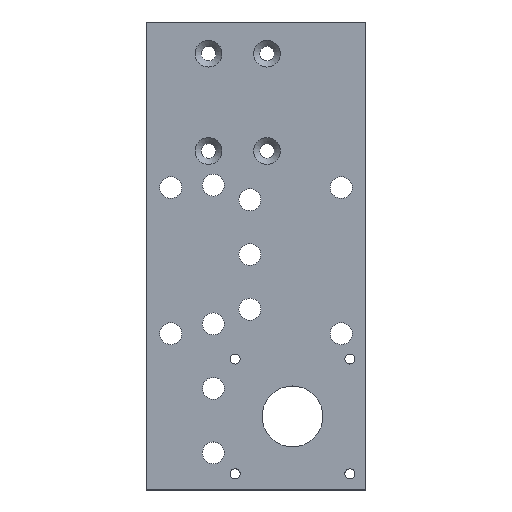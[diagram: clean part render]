
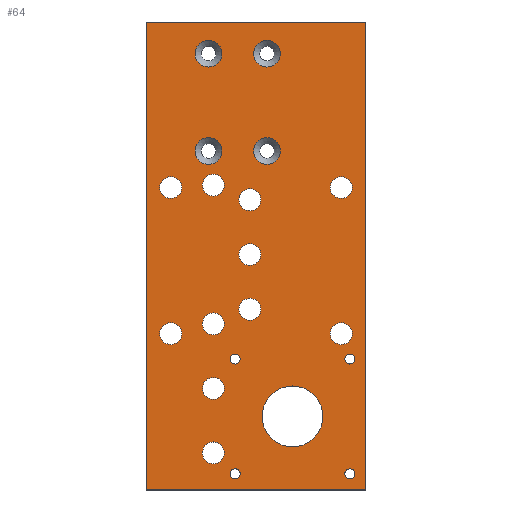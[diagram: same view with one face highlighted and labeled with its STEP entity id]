
A CAD part, top view. The second image highlights one B-rep face of the part: STEP entity #64.
In plain terms, the highlighted planar face has unit normal (0, 0, 1).
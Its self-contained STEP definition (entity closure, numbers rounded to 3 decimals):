
#64=ADVANCED_FACE('',(#241,#243,#245,#247,#249,#251,#253,#255,#257,#259,#261,#263,
#265,#267,#269,#271,#273,#275,#277,#279,#281),#283,.F.);
#241=FACE_BOUND('',#242,.T.);
#242=EDGE_LOOP('',(#2824,#2825,#2826,#2827));
#243=FACE_BOUND('',#244,.T.);
#244=EDGE_LOOP('',(#2828));
#245=FACE_BOUND('',#246,.T.);
#246=EDGE_LOOP('',(#2829));
#247=FACE_BOUND('',#248,.T.);
#248=EDGE_LOOP('',(#2830));
#249=FACE_BOUND('',#250,.T.);
#250=EDGE_LOOP('',(#2831));
#251=FACE_BOUND('',#252,.T.);
#252=EDGE_LOOP('',(#2832));
#253=FACE_BOUND('',#254,.T.);
#254=EDGE_LOOP('',(#2833));
#255=FACE_BOUND('',#256,.T.);
#256=EDGE_LOOP('',(#2834));
#257=FACE_BOUND('',#258,.T.);
#258=EDGE_LOOP('',(#2835));
#259=FACE_BOUND('',#260,.T.);
#260=EDGE_LOOP('',(#2836));
#261=FACE_BOUND('',#262,.T.);
#262=EDGE_LOOP('',(#2837));
#263=FACE_BOUND('',#264,.T.);
#264=EDGE_LOOP('',(#2838));
#265=FACE_BOUND('',#266,.T.);
#266=EDGE_LOOP('',(#2839));
#267=FACE_BOUND('',#268,.T.);
#268=EDGE_LOOP('',(#2840));
#269=FACE_BOUND('',#270,.T.);
#270=EDGE_LOOP('',(#2841));
#271=FACE_BOUND('',#272,.T.);
#272=EDGE_LOOP('',(#2842));
#273=FACE_BOUND('',#274,.T.);
#274=EDGE_LOOP('',(#2843));
#275=FACE_BOUND('',#276,.T.);
#276=EDGE_LOOP('',(#2844));
#277=FACE_BOUND('',#278,.T.);
#278=EDGE_LOOP('',(#2845));
#279=FACE_BOUND('',#280,.T.);
#280=EDGE_LOOP('',(#2846));
#281=FACE_BOUND('',#282,.T.);
#282=EDGE_LOOP('',(#2847));
#283=PLANE('',#284);
#284=AXIS2_PLACEMENT_3D('',#285,#286,#287);
#285=CARTESIAN_POINT('',(0.,2.9,0.));
#286=DIRECTION('',(0.,0.,-1.));
#287=DIRECTION('',(1.,0.,0.));
#2824=ORIENTED_EDGE('',*,*,#3012,.T.);
#2825=ORIENTED_EDGE('',*,*,#3013,.T.);
#2826=ORIENTED_EDGE('',*,*,#3014,.T.);
#2827=ORIENTED_EDGE('',*,*,#3015,.F.);
#2828=ORIENTED_EDGE('',*,*,#3016,.T.);
#2829=ORIENTED_EDGE('',*,*,#3017,.T.);
#2830=ORIENTED_EDGE('',*,*,#3018,.T.);
#2831=ORIENTED_EDGE('',*,*,#3019,.T.);
#2832=ORIENTED_EDGE('',*,*,#3020,.T.);
#2833=ORIENTED_EDGE('',*,*,#3021,.T.);
#2834=ORIENTED_EDGE('',*,*,#3022,.T.);
#2835=ORIENTED_EDGE('',*,*,#3023,.T.);
#2836=ORIENTED_EDGE('',*,*,#3024,.T.);
#2837=ORIENTED_EDGE('',*,*,#3025,.T.);
#2838=ORIENTED_EDGE('',*,*,#3026,.T.);
#2839=ORIENTED_EDGE('',*,*,#3027,.T.);
#2840=ORIENTED_EDGE('',*,*,#3028,.T.);
#2841=ORIENTED_EDGE('',*,*,#3029,.T.);
#2842=ORIENTED_EDGE('',*,*,#3030,.T.);
#2843=ORIENTED_EDGE('',*,*,#3031,.T.);
#2844=ORIENTED_EDGE('',*,*,#3032,.T.);
#2845=ORIENTED_EDGE('',*,*,#3033,.T.);
#2846=ORIENTED_EDGE('',*,*,#3034,.T.);
#2847=ORIENTED_EDGE('',*,*,#3035,.T.);
#3012=EDGE_CURVE('',#3106,#3107,#3108,.T.);
#3013=EDGE_CURVE('',#3107,#3109,#3110,.T.);
#3014=EDGE_CURVE('',#3109,#3111,#3112,.T.);
#3015=EDGE_CURVE('',#3106,#3111,#3113,.T.);
#3016=EDGE_CURVE('',#3114,#3114,#3115,.F.);
#3017=EDGE_CURVE('',#3116,#3116,#3117,.F.);
#3018=EDGE_CURVE('',#3118,#3118,#3119,.F.);
#3019=EDGE_CURVE('',#3120,#3120,#3121,.F.);
#3020=EDGE_CURVE('',#3122,#3122,#3123,.F.);
#3021=EDGE_CURVE('',#3124,#3124,#3125,.F.);
#3022=EDGE_CURVE('',#3126,#3126,#3127,.F.);
#3023=EDGE_CURVE('',#3128,#3128,#3129,.F.);
#3024=EDGE_CURVE('',#3130,#3130,#3131,.F.);
#3025=EDGE_CURVE('',#3132,#3132,#3133,.F.);
#3026=EDGE_CURVE('',#3134,#3134,#3135,.T.);
#3027=EDGE_CURVE('',#3136,#3136,#3137,.F.);
#3028=EDGE_CURVE('',#3138,#3138,#3139,.F.);
#3029=EDGE_CURVE('',#3140,#3140,#3141,.F.);
#3030=EDGE_CURVE('',#3142,#3142,#3143,.F.);
#3031=EDGE_CURVE('',#3144,#3144,#3145,.F.);
#3032=EDGE_CURVE('',#3146,#3146,#3147,.F.);
#3033=EDGE_CURVE('',#3148,#3148,#3149,.F.);
#3034=EDGE_CURVE('',#3150,#3150,#3151,.F.);
#3035=EDGE_CURVE('',#3152,#3152,#3153,.F.);
#3106=VERTEX_POINT('',#3283);
#3107=VERTEX_POINT('',#3284);
#3108=LINE('',#3285,#3286);
#3109=VERTEX_POINT('',#3288);
#3110=LINE('',#3289,#3290);
#3111=VERTEX_POINT('',#3292);
#3112=LINE('',#3293,#3294);
#3113=LINE('',#3296,#3297);
#3114=VERTEX_POINT('',#3299);
#3115=CIRCLE('',#3300,4.5);
#3116=VERTEX_POINT('',#3304);
#3117=CIRCLE('',#3305,4.5);
#3118=VERTEX_POINT('',#3309);
#3119=CIRCLE('',#3310,4.5);
#3120=VERTEX_POINT('',#3314);
#3121=CIRCLE('',#3315,4.5);
#3122=VERTEX_POINT('',#3319);
#3123=CIRCLE('',#3320,4.5);
#3124=VERTEX_POINT('',#3324);
#3125=CIRCLE('',#3325,4.5);
#3126=VERTEX_POINT('',#3329);
#3127=CIRCLE('',#3330,4.5);
#3128=VERTEX_POINT('',#3334);
#3129=CIRCLE('',#3335,4.5);
#3130=VERTEX_POINT('',#3339);
#3131=CIRCLE('',#3340,2.067);
#3132=VERTEX_POINT('',#3344);
#3133=CIRCLE('',#3345,5.5);
#3134=VERTEX_POINT('',#3349);
#3135=CIRCLE('',#3350,12.5);
#3136=VERTEX_POINT('',#3354);
#3137=CIRCLE('',#3355,5.5);
#3138=VERTEX_POINT('',#3359);
#3139=CIRCLE('',#3360,5.5);
#3140=VERTEX_POINT('',#3364);
#3141=CIRCLE('',#3365,5.5);
#3142=VERTEX_POINT('',#3369);
#3143=CIRCLE('',#3370,2.067);
#3144=VERTEX_POINT('',#3374);
#3145=CIRCLE('',#3375,2.067);
#3146=VERTEX_POINT('',#3379);
#3147=CIRCLE('',#3380,2.067);
#3148=VERTEX_POINT('',#3384);
#3149=CIRCLE('',#3385,4.5);
#3150=VERTEX_POINT('',#3389);
#3151=CIRCLE('',#3390,4.5);
#3152=VERTEX_POINT('',#3394);
#3153=CIRCLE('',#3395,4.5);
#3283=CARTESIAN_POINT('',(-45.,98.,0.));
#3284=CARTESIAN_POINT('',(-45.,-94.2,0.));
#3285=CARTESIAN_POINT('',(-45.,98.,0.));
#3286=VECTOR('',#3287,1.);
#3287=DIRECTION('',(0.,-1.,0.));
#3288=CARTESIAN_POINT('',(45.,-94.2,0.));
#3289=CARTESIAN_POINT('',(-45.,-94.2,0.));
#3290=VECTOR('',#3291,1.);
#3291=DIRECTION('',(1.,0.,0.));
#3292=CARTESIAN_POINT('',(45.,98.,0.));
#3293=CARTESIAN_POINT('',(45.,-94.2,0.));
#3294=VECTOR('',#3295,1.);
#3295=DIRECTION('',(0.,1.,0.));
#3296=CARTESIAN_POINT('',(-45.,98.,0.));
#3297=VECTOR('',#3298,1.);
#3298=DIRECTION('',(1.,0.,0.));
#3299=CARTESIAN_POINT('',(-35.,-25.5,0.));
#3300=AXIS2_PLACEMENT_3D('',#3301,#3302,#3303);
#3301=CARTESIAN_POINT('',(-35.,-30.,0.));
#3302=DIRECTION('',(0.,0.,1.));
#3303=DIRECTION('',(0.,1.,0.));
#3304=CARTESIAN_POINT('',(-35.,34.5,0.));
#3305=AXIS2_PLACEMENT_3D('',#3306,#3307,#3308);
#3306=CARTESIAN_POINT('',(-35.,30.,0.));
#3307=DIRECTION('',(0.,0.,1.));
#3308=DIRECTION('',(0.,1.,0.));
#3309=CARTESIAN_POINT('',(35.,-25.5,0.));
#3310=AXIS2_PLACEMENT_3D('',#3311,#3312,#3313);
#3311=CARTESIAN_POINT('',(35.,-30.,0.));
#3312=DIRECTION('',(0.,0.,1.));
#3313=DIRECTION('',(0.,1.,0.));
#3314=CARTESIAN_POINT('',(35.,34.5,0.));
#3315=AXIS2_PLACEMENT_3D('',#3316,#3317,#3318);
#3316=CARTESIAN_POINT('',(35.,30.,0.));
#3317=DIRECTION('',(0.,0.,1.));
#3318=DIRECTION('',(0.,1.,0.));
#3319=CARTESIAN_POINT('',(-17.5,-48.,0.));
#3320=AXIS2_PLACEMENT_3D('',#3321,#3322,#3323);
#3321=CARTESIAN_POINT('',(-17.5,-52.5,0.));
#3322=DIRECTION('',(0.,0.,1.));
#3323=DIRECTION('',(0.,1.,0.));
#3324=CARTESIAN_POINT('',(-17.5,-74.5,0.));
#3325=AXIS2_PLACEMENT_3D('',#3326,#3327,#3328);
#3326=CARTESIAN_POINT('',(-17.5,-79.,0.));
#3327=DIRECTION('',(0.,0.,1.));
#3328=DIRECTION('',(0.,1.,0.));
#3329=CARTESIAN_POINT('',(-2.5,7.,0.));
#3330=AXIS2_PLACEMENT_3D('',#3331,#3332,#3333);
#3331=CARTESIAN_POINT('',(-2.5,2.5,0.));
#3332=DIRECTION('',(0.,0.,1.));
#3333=DIRECTION('',(0.,1.,0.));
#3334=CARTESIAN_POINT('',(-17.5,-21.5,0.));
#3335=AXIS2_PLACEMENT_3D('',#3336,#3337,#3338);
#3336=CARTESIAN_POINT('',(-17.5,-26.,0.));
#3337=DIRECTION('',(0.,0.,1.));
#3338=DIRECTION('',(0.,1.,0.));
#3339=CARTESIAN_POINT('',(-8.57,-85.503,0.));
#3340=AXIS2_PLACEMENT_3D('',#3341,#3342,#3343);
#3341=CARTESIAN_POINT('',(-8.57,-87.57,0.));
#3342=DIRECTION('',(0.,0.,1.));
#3343=DIRECTION('',(0.,1.,0.));
#3344=CARTESIAN_POINT('',(-19.5,50.5,0.));
#3345=AXIS2_PLACEMENT_3D('',#3346,#3347,#3348);
#3346=CARTESIAN_POINT('',(-19.5,45.,0.));
#3347=DIRECTION('',(0.,0.,1.));
#3348=DIRECTION('',(0.,1.,0.));
#3349=CARTESIAN_POINT('',(15.,-51.5,0.));
#3350=AXIS2_PLACEMENT_3D('',#3351,#3352,#3353);
#3351=CARTESIAN_POINT('',(15.,-64.,0.));
#3352=DIRECTION('',(0.,0.,-1.));
#3353=DIRECTION('',(0.,1.,0.));
#3354=CARTESIAN_POINT('',(4.5,90.5,0.));
#3355=AXIS2_PLACEMENT_3D('',#3356,#3357,#3358);
#3356=CARTESIAN_POINT('',(4.5,85.,0.));
#3357=DIRECTION('',(0.,0.,1.));
#3358=DIRECTION('',(0.,1.,0.));
#3359=CARTESIAN_POINT('',(4.5,50.5,0.));
#3360=AXIS2_PLACEMENT_3D('',#3361,#3362,#3363);
#3361=CARTESIAN_POINT('',(4.5,45.,0.));
#3362=DIRECTION('',(0.,0.,1.));
#3363=DIRECTION('',(0.,1.,0.));
#3364=CARTESIAN_POINT('',(-19.5,90.5,0.));
#3365=AXIS2_PLACEMENT_3D('',#3366,#3367,#3368);
#3366=CARTESIAN_POINT('',(-19.5,85.,0.));
#3367=DIRECTION('',(0.,0.,1.));
#3368=DIRECTION('',(0.,1.,0.));
#3369=CARTESIAN_POINT('',(36.503,-87.57,0.));
#3370=AXIS2_PLACEMENT_3D('',#3371,#3372,#3373);
#3371=CARTESIAN_POINT('',(38.57,-87.57,0.));
#3372=DIRECTION('',(0.,0.,1.));
#3373=DIRECTION('',(-1.,0.,0.));
#3374=CARTESIAN_POINT('',(38.57,-42.497,0.));
#3375=AXIS2_PLACEMENT_3D('',#3376,#3377,#3378);
#3376=CARTESIAN_POINT('',(38.57,-40.43,0.));
#3377=DIRECTION('',(0.,0.,1.));
#3378=DIRECTION('',(0.,-1.,0.));
#3379=CARTESIAN_POINT('',(-6.503,-40.43,0.));
#3380=AXIS2_PLACEMENT_3D('',#3381,#3382,#3383);
#3381=CARTESIAN_POINT('',(-8.57,-40.43,0.));
#3382=DIRECTION('',(0.,0.,1.));
#3383=DIRECTION('',(1.,0.,0.));
#3384=CARTESIAN_POINT('',(-2.5,29.5,0.));
#3385=AXIS2_PLACEMENT_3D('',#3386,#3387,#3388);
#3386=CARTESIAN_POINT('',(-2.5,25.,0.));
#3387=DIRECTION('',(0.,0.,1.));
#3388=DIRECTION('',(0.,1.,0.));
#3389=CARTESIAN_POINT('',(-17.5,35.5,0.));
#3390=AXIS2_PLACEMENT_3D('',#3391,#3392,#3393);
#3391=CARTESIAN_POINT('',(-17.5,31.,0.));
#3392=DIRECTION('',(0.,0.,1.));
#3393=DIRECTION('',(0.,1.,0.));
#3394=CARTESIAN_POINT('',(-2.5,-15.5,0.));
#3395=AXIS2_PLACEMENT_3D('',#3396,#3397,#3398);
#3396=CARTESIAN_POINT('',(-2.5,-20.,0.));
#3397=DIRECTION('',(0.,0.,1.));
#3398=DIRECTION('',(0.,1.,0.));
